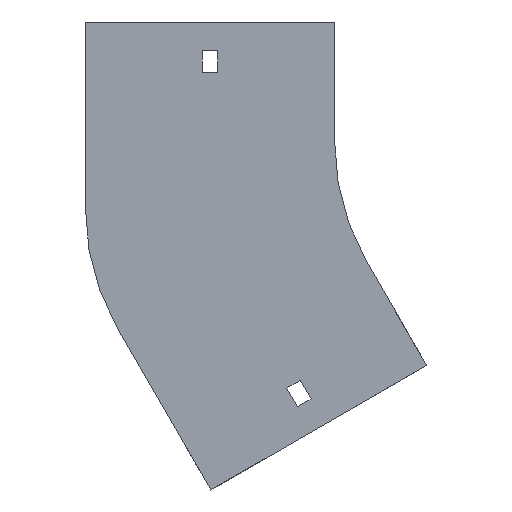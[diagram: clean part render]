
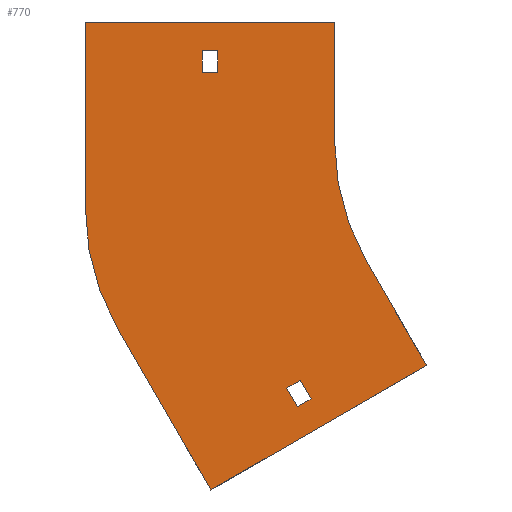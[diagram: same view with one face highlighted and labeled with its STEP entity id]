
A CAD part, front view. The second image highlights one B-rep face of the part: STEP entity #770.
In plain terms, the highlighted planar face has unit normal (0, -1, 0).
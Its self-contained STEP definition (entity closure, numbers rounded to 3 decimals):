
#5 = CARTESIAN_POINT ( 'NONE',  ( -155.25, 0., 29. ) ) ;
#14 = VECTOR ( 'NONE', #846, 1000. ) ;
#15 = AXIS2_PLACEMENT_3D ( 'NONE', #272, #55, #368 ) ;
#20 = DIRECTION ( 'NONE',  ( -0.866, 0., -0.5 ) ) ;
#24 = CARTESIAN_POINT ( 'NONE',  ( -115.45, 0., -110.534 ) ) ;
#25 = CARTESIAN_POINT ( 'NONE',  ( -204., 0., -27.867 ) ) ;
#31 = ORIENTED_EDGE ( 'NONE', *, *, #1207, .F. ) ;
#34 = DIRECTION ( 'NONE',  ( 0., 1., 0. ) ) ;
#37 = CARTESIAN_POINT ( 'NONE',  ( -155.25, 0., 29. ) ) ;
#41 = VECTOR ( 'NONE', #829, 1000. ) ;
#45 = EDGE_CURVE ( 'NONE', #587, #847, #938, .T. ) ;
#46 = CARTESIAN_POINT ( 'NONE',  ( -100., 0., 50. ) ) ;
#55 = DIRECTION ( 'NONE',  ( 0., -1., 0. ) ) ;
#64 = ORIENTED_EDGE ( 'NONE', *, *, #890, .F. ) ;
#68 = ORIENTED_EDGE ( 'NONE', *, *, #380, .T. ) ;
#72 = LINE ( 'NONE', #37, #600 ) ;
#89 = CARTESIAN_POINT ( 'NONE',  ( -155.25, 0., 38. ) ) ;
#118 = CARTESIAN_POINT ( 'NONE',  ( -148.75, 0., 29. ) ) ;
#132 = CARTESIAN_POINT ( 'NONE',  ( -119.95, 0., -102.74 ) ) ;
#133 = AXIS2_PLACEMENT_3D ( 'NONE', #1397, #431, #201 ) ;
#156 = CARTESIAN_POINT ( 'NONE',  ( -119.95, 0., -102.74 ) ) ;
#175 = CIRCLE ( 'NONE', #15, 100. ) ;
#177 = AXIS2_PLACEMENT_3D ( 'NONE', #677, #34, #1221 ) ;
#188 = ORIENTED_EDGE ( 'NONE', *, *, #1117, .F. ) ;
#190 = CARTESIAN_POINT ( 'NONE',  ( -204., 0., 50. ) ) ;
#200 = VERTEX_POINT ( 'NONE', #190 ) ;
#201 = DIRECTION ( 'NONE',  ( 0., 0., -1. ) ) ;
#205 = EDGE_CURVE ( 'NONE', #1156, #917, #614, .T. ) ;
#225 = VECTOR ( 'NONE', #432, 1000. ) ;
#229 = CARTESIAN_POINT ( 'NONE',  ( -115.45, 0., -110.534 ) ) ;
#258 = LINE ( 'NONE', #646, #1015 ) ;
#270 = VERTEX_POINT ( 'NONE', #913 ) ;
#271 = VERTEX_POINT ( 'NONE', #506 ) ;
#272 = CARTESIAN_POINT ( 'NONE',  ( 0., 0., 0. ) ) ;
#284 = ORIENTED_EDGE ( 'NONE', *, *, #876, .F. ) ;
#299 = CARTESIAN_POINT ( 'NONE',  ( -100., 0., 0. ) ) ;
#300 = ORIENTED_EDGE ( 'NONE', *, *, #1002, .F. ) ;
#302 = CARTESIAN_POINT ( 'NONE',  ( -148.75, 0., 29. ) ) ;
#304 = FACE_BOUND ( 'NONE', #1127, .T. ) ;
#313 = CARTESIAN_POINT ( 'NONE',  ( -61.603, 0., -93.301 ) ) ;
#320 = VERTEX_POINT ( 'NONE', #1146 ) ;
#322 = VECTOR ( 'NONE', #1189, 1000. ) ;
#327 = LINE ( 'NONE', #1083, #1216 ) ;
#334 = LINE ( 'NONE', #1106, #357 ) ;
#352 = EDGE_CURVE ( 'NONE', #1239, #387, #1287, .T. ) ;
#357 = VECTOR ( 'NONE', #557, 1000. ) ;
#363 = VERTEX_POINT ( 'NONE', #89 ) ;
#368 = DIRECTION ( 'NONE',  ( 0., 0., -1. ) ) ;
#380 = EDGE_CURVE ( 'NONE', #363, #976, #327, .T. ) ;
#386 = ORIENTED_EDGE ( 'NONE', *, *, #352, .F. ) ;
#387 = VERTEX_POINT ( 'NONE', #313 ) ;
#404 = EDGE_CURVE ( 'NONE', #976, #1250, #1187, .T. ) ;
#414 = VERTEX_POINT ( 'NONE', #299 ) ;
#431 = DIRECTION ( 'NONE',  ( 0., -1., 0. ) ) ;
#432 = DIRECTION ( 'NONE',  ( 0.5, 0., -0.866 ) ) ;
#470 = CARTESIAN_POINT ( 'NONE',  ( -190.603, 0., -77.867 ) ) ;
#492 = DIRECTION ( 'NONE',  ( 0., 0., 1. ) ) ;
#506 = CARTESIAN_POINT ( 'NONE',  ( -151.669, 0., -145.301 ) ) ;
#511 = VECTOR ( 'NONE', #928, 1000. ) ;
#518 = DIRECTION ( 'NONE',  ( 0., 0., -1. ) ) ;
#534 = ORIENTED_EDGE ( 'NONE', *, *, #703, .T. ) ;
#553 = EDGE_CURVE ( 'NONE', #271, #587, #334, .T. ) ;
#557 = DIRECTION ( 'NONE',  ( -0.5, 0., 0.866 ) ) ;
#559 = LINE ( 'NONE', #24, #322 ) ;
#580 = VECTOR ( 'NONE', #20, 1000. ) ;
#587 = VERTEX_POINT ( 'NONE', #470 ) ;
#600 = VECTOR ( 'NONE', #492, 1000. ) ;
#614 = LINE ( 'NONE', #156, #511 ) ;
#626 = VECTOR ( 'NONE', #518, 1000. ) ;
#630 = ORIENTED_EDGE ( 'NONE', *, *, #553, .F. ) ;
#646 = CARTESIAN_POINT ( 'NONE',  ( -155.25, 0., 29. ) ) ;
#653 = FACE_BOUND ( 'NONE', #824, .T. ) ;
#677 = CARTESIAN_POINT ( 'NONE',  ( -104., 0., -27.867 ) ) ;
#678 = EDGE_CURVE ( 'NONE', #320, #270, #896, .T. ) ;
#688 = LINE ( 'NONE', #696, #897 ) ;
#696 = CARTESIAN_POINT ( 'NONE',  ( -204., 0., -27.867 ) ) ;
#703 = EDGE_CURVE ( 'NONE', #1250, #823, #258, .T. ) ;
#713 = ORIENTED_EDGE ( 'NONE', *, *, #1366, .F. ) ;
#721 = ORIENTED_EDGE ( 'NONE', *, *, #404, .T. ) ;
#731 = CARTESIAN_POINT ( 'NONE',  ( -119.95, 0., -102.74 ) ) ;
#733 = FACE_OUTER_BOUND ( 'NONE', #975, .T. ) ;
#738 = PLANE ( 'NONE',  #133 ) ;
#748 = DIRECTION ( 'NONE',  ( 0., 0., -1. ) ) ;
#770 = ADVANCED_FACE ( 'NONE', ( #653, #733, #304 ), #738, .T. ) ;
#794 = DIRECTION ( 'NONE',  ( 0., 0., 1. ) ) ;
#816 = ORIENTED_EDGE ( 'NONE', *, *, #1404, .F. ) ;
#823 = VERTEX_POINT ( 'NONE', #5 ) ;
#824 = EDGE_LOOP ( 'NONE', ( #1016, #68, #721, #534 ) ) ;
#829 = DIRECTION ( 'NONE',  ( -0.5, 0., 0.866 ) ) ;
#846 = DIRECTION ( 'NONE',  ( 1., 0., 0. ) ) ;
#847 = VERTEX_POINT ( 'NONE', #25 ) ;
#876 = EDGE_CURVE ( 'NONE', #387, #271, #993, .T. ) ;
#877 = LINE ( 'NONE', #132, #580 ) ;
#879 = CARTESIAN_POINT ( 'NONE',  ( -100., 0., 50. ) ) ;
#887 = VECTOR ( 'NONE', #748, 1000. ) ;
#890 = EDGE_CURVE ( 'NONE', #270, #1156, #877, .T. ) ;
#896 = LINE ( 'NONE', #1254, #41 ) ;
#897 = VECTOR ( 'NONE', #794, 1000. ) ;
#913 = CARTESIAN_POINT ( 'NONE',  ( -114.321, 0., -99.49 ) ) ;
#917 = VERTEX_POINT ( 'NONE', #229 ) ;
#928 = DIRECTION ( 'NONE',  ( 0.5, 0., -0.866 ) ) ;
#938 = CIRCLE ( 'NONE', #177, 100. ) ;
#965 = LINE ( 'NONE', #1384, #14 ) ;
#975 = EDGE_LOOP ( 'NONE', ( #31, #816, #1347, #630, #284, #386, #300, #188 ) ) ;
#976 = VERTEX_POINT ( 'NONE', #1150 ) ;
#993 = LINE ( 'NONE', #1110, #1201 ) ;
#1002 = EDGE_CURVE ( 'NONE', #414, #1239, #175, .T. ) ;
#1015 = VECTOR ( 'NONE', #1386, 1000. ) ;
#1016 = ORIENTED_EDGE ( 'NONE', *, *, #1065, .T. ) ;
#1017 = LINE ( 'NONE', #46, #626 ) ;
#1049 = ORIENTED_EDGE ( 'NONE', *, *, #678, .F. ) ;
#1065 = EDGE_CURVE ( 'NONE', #823, #363, #72, .T. ) ;
#1067 = CARTESIAN_POINT ( 'NONE',  ( -86.603, 0., -50. ) ) ;
#1083 = CARTESIAN_POINT ( 'NONE',  ( -155.25, 0., 38. ) ) ;
#1106 = CARTESIAN_POINT ( 'NONE',  ( -151.669, 0., -145.301 ) ) ;
#1110 = CARTESIAN_POINT ( 'NONE',  ( -61.603, 0., -93.301 ) ) ;
#1117 = EDGE_CURVE ( 'NONE', #1309, #414, #1017, .T. ) ;
#1127 = EDGE_LOOP ( 'NONE', ( #713, #1281, #64, #1049 ) ) ;
#1146 = CARTESIAN_POINT ( 'NONE',  ( -109.821, 0., -107.284 ) ) ;
#1150 = CARTESIAN_POINT ( 'NONE',  ( -148.75, 0., 38. ) ) ;
#1156 = VERTEX_POINT ( 'NONE', #731 ) ;
#1187 = LINE ( 'NONE', #118, #887 ) ;
#1189 = DIRECTION ( 'NONE',  ( 0.866, 0., 0.5 ) ) ;
#1201 = VECTOR ( 'NONE', #1326, 1000. ) ;
#1207 = EDGE_CURVE ( 'NONE', #200, #1309, #965, .T. ) ;
#1216 = VECTOR ( 'NONE', #1393, 1000. ) ;
#1221 = DIRECTION ( 'NONE',  ( 0., 0., 1. ) ) ;
#1239 = VERTEX_POINT ( 'NONE', #1067 ) ;
#1250 = VERTEX_POINT ( 'NONE', #302 ) ;
#1254 = CARTESIAN_POINT ( 'NONE',  ( -114.321, 0., -99.49 ) ) ;
#1281 = ORIENTED_EDGE ( 'NONE', *, *, #205, .F. ) ;
#1287 = LINE ( 'NONE', #1298, #225 ) ;
#1298 = CARTESIAN_POINT ( 'NONE',  ( -86.603, 0., -50. ) ) ;
#1309 = VERTEX_POINT ( 'NONE', #879 ) ;
#1326 = DIRECTION ( 'NONE',  ( -0.866, 0., -0.5 ) ) ;
#1347 = ORIENTED_EDGE ( 'NONE', *, *, #45, .F. ) ;
#1366 = EDGE_CURVE ( 'NONE', #917, #320, #559, .T. ) ;
#1384 = CARTESIAN_POINT ( 'NONE',  ( -204., 0., 50. ) ) ;
#1386 = DIRECTION ( 'NONE',  ( -1., 0., 0. ) ) ;
#1393 = DIRECTION ( 'NONE',  ( 1., 0., 0. ) ) ;
#1397 = CARTESIAN_POINT ( 'NONE',  ( 0., 0., 0. ) ) ;
#1404 = EDGE_CURVE ( 'NONE', #847, #200, #688, .T. ) ;
